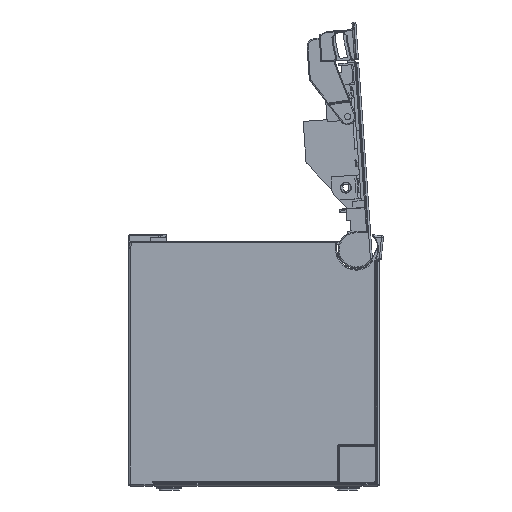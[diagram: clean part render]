
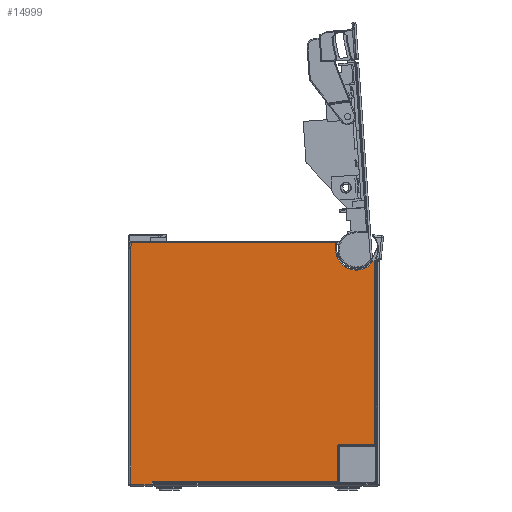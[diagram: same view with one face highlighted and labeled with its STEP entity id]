
A CAD part, left-side view. The second image highlights one B-rep face of the part: STEP entity #14999.
In plain terms, the highlighted planar face has unit normal (-1, 0, 0).
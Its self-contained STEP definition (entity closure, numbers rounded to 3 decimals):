
#492=CARTESIAN_POINT('',(-31.5,21.7,14.452));
#4300=DIRECTION('',(0.,1.,0.));
#4301=VECTOR('',#4300,93.2);
#4302=CARTESIAN_POINT('',(-31.5,-82.5,-103.9));
#4303=LINE('',#4302,#4301);
#4304=DIRECTION('',(0.,-1.,0.));
#4305=VECTOR('',#4304,11.);
#4306=CARTESIAN_POINT('',(-31.5,21.7,-105.));
#4307=LINE('',#4306,#4305);
#4308=DIRECTION('',(0.,0.,1.));
#4309=VECTOR('',#4308,119.452);
#4310=CARTESIAN_POINT('',(-31.5,21.7,-105.));
#4311=LINE('',#4310,#4309);
#4312=DIRECTION('',(0.,0.29,-0.957));
#4313=VECTOR('',#4312,3.081);
#4314=CARTESIAN_POINT('',(-31.5,20.807,17.4));
#4315=LINE('',#4314,#4313);
#4316=DIRECTION('',(0.,1.,0.));
#4317=VECTOR('',#4316,103.007);
#4318=CARTESIAN_POINT('',(-31.5,-82.2,17.4));
#4319=LINE('',#4318,#4317);
#4320=DIRECTION('',(0.,0.,1.));
#4321=VECTOR('',#4320,3.8);
#4322=CARTESIAN_POINT('',(-31.5,-82.2,13.6));
#4323=LINE('',#4322,#4321);
#4324=CARTESIAN_POINT('',(-31.5,-92.5,13.6));
#4325=DIRECTION('',(1.,0.,0.));
#4326=DIRECTION('',(0.,-0.826,-0.563));
#4327=AXIS2_PLACEMENT_3D('',#4324,#4325,#4326);
#4329=DIRECTION('',(0.,1.,0.));
#4330=VECTOR('',#4329,0.988);
#4331=CARTESIAN_POINT('',(-31.5,-102.,7.8));
#4332=LINE('',#4331,#4330);
#4333=DIRECTION('',(0.,0.,-1.));
#4334=VECTOR('',#4333,92.2);
#4335=CARTESIAN_POINT('',(-31.5,-102.,7.8));
#4336=LINE('',#4335,#4334);
#4337=CARTESIAN_POINT('',(-31.5,-101.5,-84.4));
#4338=DIRECTION('',(1.,0.,0.));
#4339=DIRECTION('',(0.,-1.,0.));
#4340=AXIS2_PLACEMENT_3D('',#4337,#4338,#4339);
#4342=DIRECTION('',(0.,1.,0.));
#4343=VECTOR('',#4342,17.);
#4344=CARTESIAN_POINT('',(-31.5,-101.5,-84.9));
#4345=LINE('',#4344,#4343);
#4346=CARTESIAN_POINT('',(-31.5,-84.5,-86.4));
#4347=DIRECTION('',(-1.,0.,0.));
#4348=DIRECTION('',(0.,0.,1.));
#4349=AXIS2_PLACEMENT_3D('',#4346,#4347,#4348);
#4351=DIRECTION('',(0.,0.,-1.));
#4352=VECTOR('',#4351,17.);
#4353=CARTESIAN_POINT('',(-31.5,-83.,-86.4));
#4354=LINE('',#4353,#4352);
#4355=CARTESIAN_POINT('',(-31.5,-82.5,-103.4));
#4356=DIRECTION('',(1.,0.,0.));
#4357=DIRECTION('',(0.,-1.,0.));
#4358=AXIS2_PLACEMENT_3D('',#4355,#4356,#4357);
#4477=DIRECTION('',(0.,0.,1.));
#4478=VECTOR('',#4477,1.1);
#4479=CARTESIAN_POINT('',(-31.5,10.7,-105.));
#4480=LINE('',#4479,#4478);
#8784=CARTESIAN_POINT('',(-31.5,-82.5,-103.9));
#8785=CARTESIAN_POINT('',(-31.5,10.7,-103.9));
#8786=VERTEX_POINT('',#8784);
#8787=VERTEX_POINT('',#8785);
#8794=CARTESIAN_POINT('',(-31.5,10.7,-105.));
#8795=VERTEX_POINT('',#8794);
#9414=CARTESIAN_POINT('',(-31.5,-82.2,17.4));
#9415=CARTESIAN_POINT('',(-31.5,20.807,17.4));
#9416=VERTEX_POINT('',#9414);
#9417=VERTEX_POINT('',#9415);
#9420=CARTESIAN_POINT('',(-31.5,-82.2,13.6));
#9421=VERTEX_POINT('',#9420);
#9424=CARTESIAN_POINT('',(-31.5,-101.012,7.8));
#9425=VERTEX_POINT('',#9424);
#9628=CARTESIAN_POINT('',(-31.5,-102.,7.8));
#9629=VERTEX_POINT('',#9628);
#9632=CARTESIAN_POINT('',(-31.5,-102.,-84.4));
#9633=VERTEX_POINT('',#9632);
#9636=CARTESIAN_POINT('',(-31.5,-101.5,-84.9));
#9637=VERTEX_POINT('',#9636);
#9640=CARTESIAN_POINT('',(-31.5,-84.5,-84.9));
#9641=VERTEX_POINT('',#9640);
#9644=CARTESIAN_POINT('',(-31.5,-83.,-86.4));
#9645=VERTEX_POINT('',#9644);
#9648=CARTESIAN_POINT('',(-31.5,-83.,-103.4));
#9649=VERTEX_POINT('',#9648);
#9684=CARTESIAN_POINT('',(-31.5,21.7,-105.));
#9685=VERTEX_POINT('',#9684);
#9999=VERTEX_POINT('',#492);
#14964=CARTESIAN_POINT('',(-31.5,-102.5,-106.));
#14965=DIRECTION('',(-1.,0.,0.));
#14966=DIRECTION('',(0.,0.,1.));
#14967=AXIS2_PLACEMENT_3D('',#14964,#14965,#14966);
#14968=PLANE('',#14967);
#14970=ORIENTED_EDGE('',*,*,#14969,.T.);
#14972=ORIENTED_EDGE('',*,*,#14971,.F.);
#14974=ORIENTED_EDGE('',*,*,#14973,.F.);
#14975=ORIENTED_EDGE('',*,*,#10859,.T.);
#14977=ORIENTED_EDGE('',*,*,#14976,.F.);
#14979=ORIENTED_EDGE('',*,*,#14978,.F.);
#14981=ORIENTED_EDGE('',*,*,#14980,.F.);
#14982=ORIENTED_EDGE('',*,*,#14954,.F.);
#14984=ORIENTED_EDGE('',*,*,#14983,.F.);
#14986=ORIENTED_EDGE('',*,*,#14985,.T.);
#14988=ORIENTED_EDGE('',*,*,#14987,.T.);
#14990=ORIENTED_EDGE('',*,*,#14989,.T.);
#14992=ORIENTED_EDGE('',*,*,#14991,.T.);
#14994=ORIENTED_EDGE('',*,*,#14993,.T.);
#14996=ORIENTED_EDGE('',*,*,#14995,.T.);
#14997=EDGE_LOOP('',(#14970,#14972,#14974,#14975,#14977,#14979,#14981,#14982,
#14984,#14986,#14988,#14990,#14992,#14994,#14996));
#14998=FACE_OUTER_BOUND('',#14997,.F.);
#4328=CIRCLE('',#4327,10.3);
#4341=CIRCLE('',#4340,0.5);
#4350=CIRCLE('',#4349,1.5);
#4359=CIRCLE('',#4358,0.5);
#10859=EDGE_CURVE('',#9685,#9999,#4311,.T.);
#14954=EDGE_CURVE('',#9425,#9421,#4328,.T.);
#14969=EDGE_CURVE('',#8786,#8787,#4303,.T.);
#14971=EDGE_CURVE('',#8795,#8787,#4480,.T.);
#14973=EDGE_CURVE('',#9685,#8795,#4307,.T.);
#14976=EDGE_CURVE('',#9417,#9999,#4315,.T.);
#14978=EDGE_CURVE('',#9416,#9417,#4319,.T.);
#14980=EDGE_CURVE('',#9421,#9416,#4323,.T.);
#14983=EDGE_CURVE('',#9629,#9425,#4332,.T.);
#14985=EDGE_CURVE('',#9629,#9633,#4336,.T.);
#14987=EDGE_CURVE('',#9633,#9637,#4341,.T.);
#14989=EDGE_CURVE('',#9637,#9641,#4345,.T.);
#14991=EDGE_CURVE('',#9641,#9645,#4350,.T.);
#14993=EDGE_CURVE('',#9645,#9649,#4354,.T.);
#14995=EDGE_CURVE('',#9649,#8786,#4359,.T.);
#14999=ADVANCED_FACE('',(#14998),#14968,.T.);
